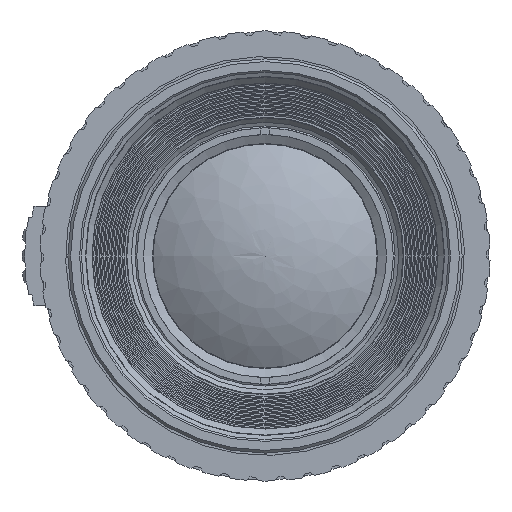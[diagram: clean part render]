
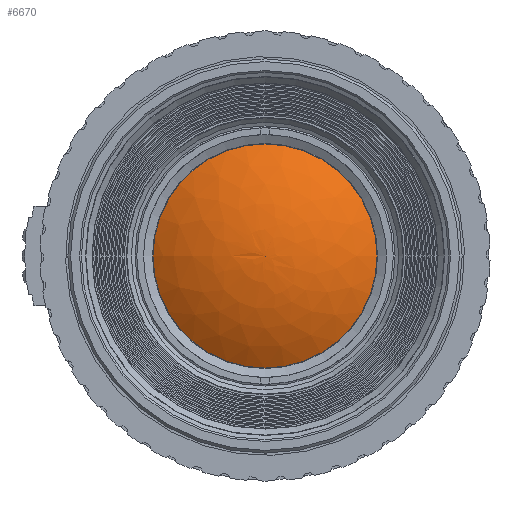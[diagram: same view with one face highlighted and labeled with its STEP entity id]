
A CAD part, left-side view. The second image highlights one B-rep face of the part: STEP entity #6670.
In plain terms, the highlighted face is a revolution surface.
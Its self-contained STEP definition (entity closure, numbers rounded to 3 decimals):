
#3722=SURFACE_OF_REVOLUTION('',#3800,#3724);
#3724=AXIS1_PLACEMENT('',#18717,#15985);
#3726=VERTEX_LOOP('',#10874);
#3800=B_SPLINE_CURVE_WITH_KNOTS('',3,(#18712,#18713,#18714,#18715,#18716),
.UNSPECIFIED.,.F.,.F.,(4,1,4),(0.,0.522,1.),.UNSPECIFIED.);
#4593=FACE_OUTER_BOUND('',#7627,.T.);
#6670=ADVANCED_FACE('',(#6985,#4593),#3722,.F.);
#6985=FACE_BOUND('',#3726,.T.);
#7627=EDGE_LOOP('',(#10039));
#10039=ORIENTED_EDGE('',*,*,#12081,.F.);
#10874=VERTEX_POINT('',#18709);
#10875=VERTEX_POINT('',#18711);
#12081=EDGE_CURVE('',#10875,#10875,#12483,.T.);
#12483=CIRCLE('',#13389,12.447);
#13389=AXIS2_PLACEMENT_3D('',#18710,#15983,#15984);
#15983=DIRECTION('',(1.,0.,0.));
#15984=DIRECTION('',(0.,0.,1.));
#15985=DIRECTION('',(-1.,0.,0.));
#18709=CARTESIAN_POINT('',(-11.71,0.,0.));
#18710=CARTESIAN_POINT('',(-7.98,0.,0.));
#18711=CARTESIAN_POINT('',(-7.98,0.,12.447));
#18712=CARTESIAN_POINT('',(-11.71,0.,0.));
#18713=CARTESIAN_POINT('',(-11.71,2.165,0.));
#18714=CARTESIAN_POINT('',(-11.122,6.314,0.));
#18715=CARTESIAN_POINT('',(-9.29,10.463,0.));
#18716=CARTESIAN_POINT('',(-7.98,12.447,0.));
#18717=CARTESIAN_POINT('',(-11.71,0.,0.));
